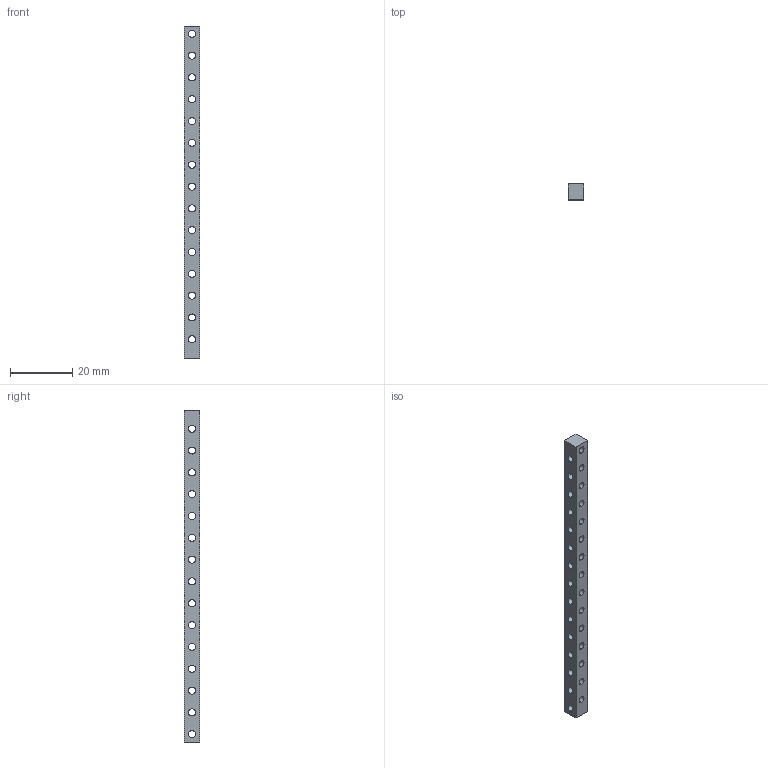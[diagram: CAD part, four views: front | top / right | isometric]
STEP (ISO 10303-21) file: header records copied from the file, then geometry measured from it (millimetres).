
FILE_DESCRIPTION (( 'STEP AP214' ), '1' );
FILE_NAME ('5mm_NutStrip_15x15_R1.STEP', '2019-10-05T04:26:47', ( 'Kurtis' ), ( '' ), 'SwSTEP 2.0', 'SolidWorks 2015', '' );
FILE_SCHEMA (( 'AUTOMOTIVE_DESIGN' ));
Length unit declared in the file: millimetre
Products named in the file (1): 5mm_NutStrip_15x15_R1
Bounding box: 5 x 5 x 106.5 mm (x, y, z)
Volume: 2060.5 mm3; surface area: 3004.5 mm2
Topology: 1 solids, 1 shells, 66 faces, 192 edges, 128 vertices
Faces by surface type: cylinder 60, plane 6
Entity records: 2454 total; most frequent: DIRECTION 446, CARTESIAN_POINT 387, ORIENTED_EDGE 384, EDGE_CURVE 192, AXIS2_PLACEMENT_3D 187, VERTEX_POINT 128, EDGE_LOOP 126, CIRCLE 120
